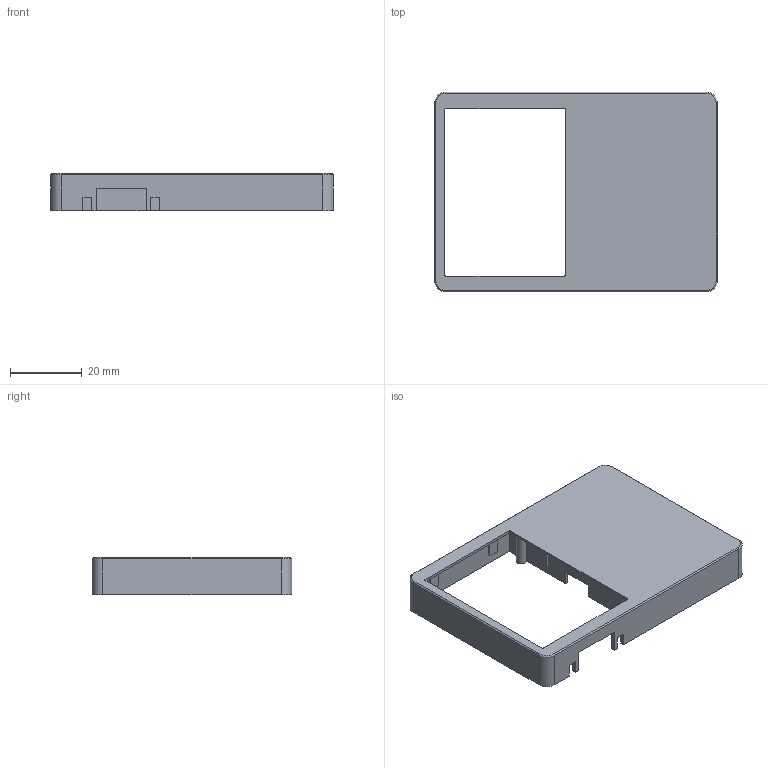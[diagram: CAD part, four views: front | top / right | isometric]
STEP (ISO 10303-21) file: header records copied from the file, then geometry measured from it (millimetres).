
FILE_DESCRIPTION(('Open CASCADE Model'),'2;1');
FILE_NAME('Open CASCADE Shape Model','2026-11-21T23:17:17',('Author'),( 'Open CASCADE'),'Open CASCADE STEP processor 7.9','Open CASCADE 7.9' ,'Unknown');
FILE_SCHEMA(('AUTOMOTIVE_DESIGN { 1 0 10303 214 1 1 1 1 }'));
Length unit declared in the file: millimetre
Products named in the file (1): Open CASCADE STEP translator 7.9 1
Bounding box: 79 x 55.8 x 10.4 mm (x, y, z)
Volume: 5953.4 mm3; surface area: 13224.4 mm2
Topology: 1 solids, 1 shells, 174 faces, 454 edges, 300 vertices
Faces by surface type: plane 122, cylinder 48, cone 4
Full cylindrical faces by diameter (mm): 1.2 x2
Entity records: 11392 total; most frequent: CARTESIAN_POINT 2161, DIRECTION 1758, LINE 1166, VECTOR 1166, ORIENTED_EDGE 908, PCURVE 908, DEFINITIONAL_REPRESENTATION 908, EDGE_CURVE 454
